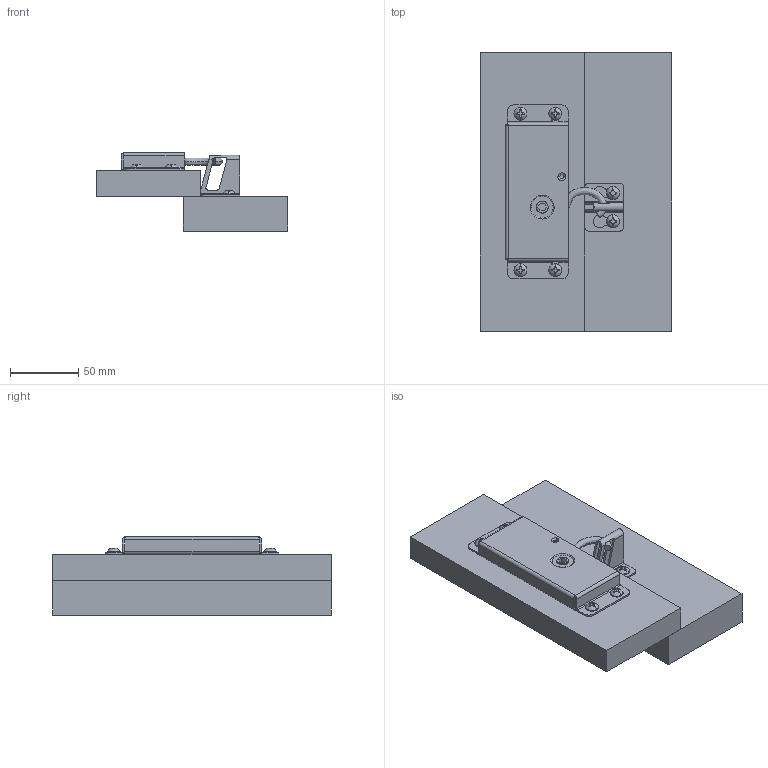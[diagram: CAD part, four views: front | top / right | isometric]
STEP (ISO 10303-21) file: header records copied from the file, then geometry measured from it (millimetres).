
FILE_DESCRIPTION (( 'STEP AP203' ), '1' );
FILE_NAME ('TDS 207-1A1 ASSY.STEP', '2014-04-05T23:26:26', ( 'Owner' ), ( '' ), 'SwSTEP 2.0', 'SolidWorks 2011', '' );
FILE_SCHEMA (( 'CONFIG_CONTROL_DESIGN' ));
Length unit declared in the file: inch
Products named in the file (15): #10 PHPS_90184A378; TYPE 1 - LARGE ACTUATOR; S-HOOK TDS 36-4A; TDS 207-1A1 ASSY; BOTR-1; WOOD; S HOOK ASSY TDS 36-4A_TDS 36-4A; T1 T2 T3 LARGE HEX KEY; SPRING PLATE TDS 36-4A; S1500-1R-750
Assembly tree (15 placements, depth 3):
  TDS 207-1A1 ASSY
    #10 PHPS_90184A378
    #10 PHPS_90184A378  x2
    WOOD
    #10 PHPS_90184A378
    S1500-1R-750
    #10 PHPS_90184A378
    WOOD
    #10 PHPS_90184A378
    S HOOK ASSY TDS 36-4A_TDS 36-4A
      T1 T2 T3 LARGE HEX KEY
      TYPE 1 - LARGE ACTUATOR
      SPRING PLATE TDS 36-4A
      S-HOOK TDS 36-4A
    BOTR-1
Bounding box: 139.7 x 203.2 x 57.15 mm (x, y, z)
Volume: 714961.6 mm3; surface area: 126770.1 mm2
Topology: 14 solids, 14 shells, 956 faces, 2672 edges, 1746 vertices
Faces by surface type: cylinder 419, plane 279, bspline 172, cone 50, torus 24, sphere 12
Entity records: 38126 total; most frequent: CARTESIAN_POINT 17553, ORIENTED_EDGE 4680, DIRECTION 3323, EDGE_CURVE 2340, VERTEX_POINT 1525, AXIS2_PLACEMENT_3D 1158, VECTOR 1007, LINE 1007
